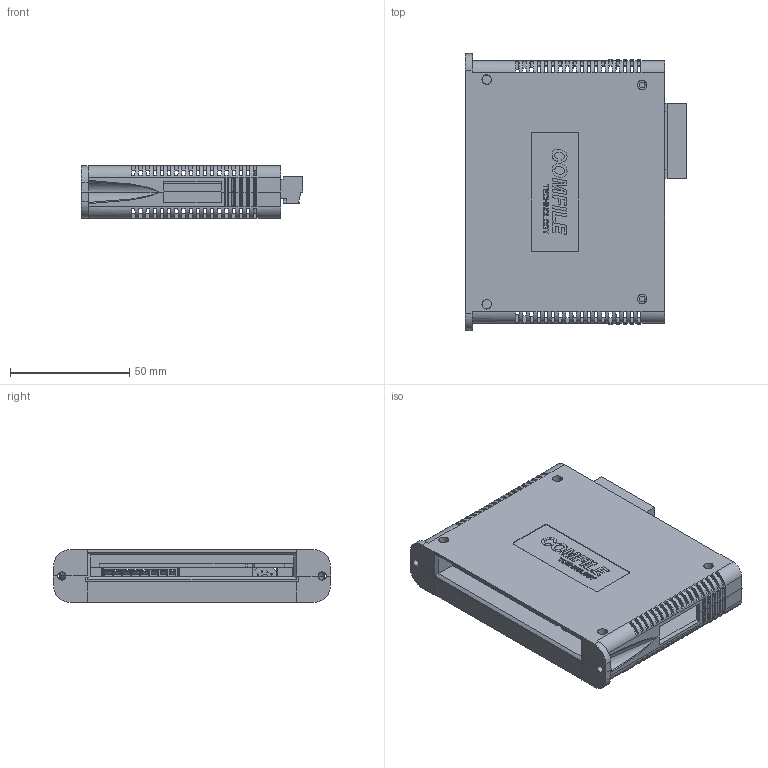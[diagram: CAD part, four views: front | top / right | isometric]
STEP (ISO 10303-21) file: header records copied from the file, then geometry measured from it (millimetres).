
FILE_DESCRIPTION (( 'STEP AP214' ), '1' );
FILE_NAME ('RS-ADIN4_ASM.STEP', '2016-06-14T04:17:36', ( 'Registered User' ), ( 'Microsoft Corporation' ), 'SwSTEP 2.0', 'SolidWorks 2014', '' );
FILE_SCHEMA (( 'AUTOMOTIVE_DESIGN' ));
Length unit declared in the file: millimetre
Products named in the file (1): RS-ADIN4_ASM
Bounding box: 92.6 x 116 x 22 mm (x, y, z)
Surface area: 53302.1 mm2 (no closed solid volume)
Topology: 0 solids, 17 shells, 942 faces, 3709 edges, 2621 vertices
Faces by surface type: plane 778, cylinder 139, bspline 15, cone 10
Entity records: 49508 total; most frequent: CARTESIAN_POINT 10476, ORIENTED_EDGE 5717, DIRECTION 5254, EDGE_CURVE 3709, LINE 2956, VECTOR 2956, VERTEX_POINT 2621, AXIS2_PLACEMENT_3D 1149
